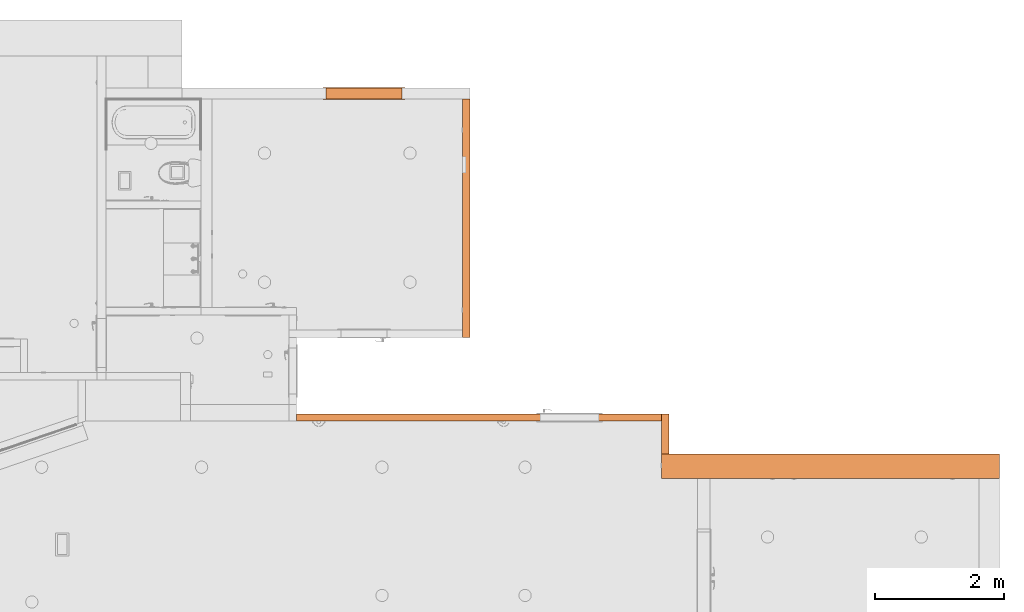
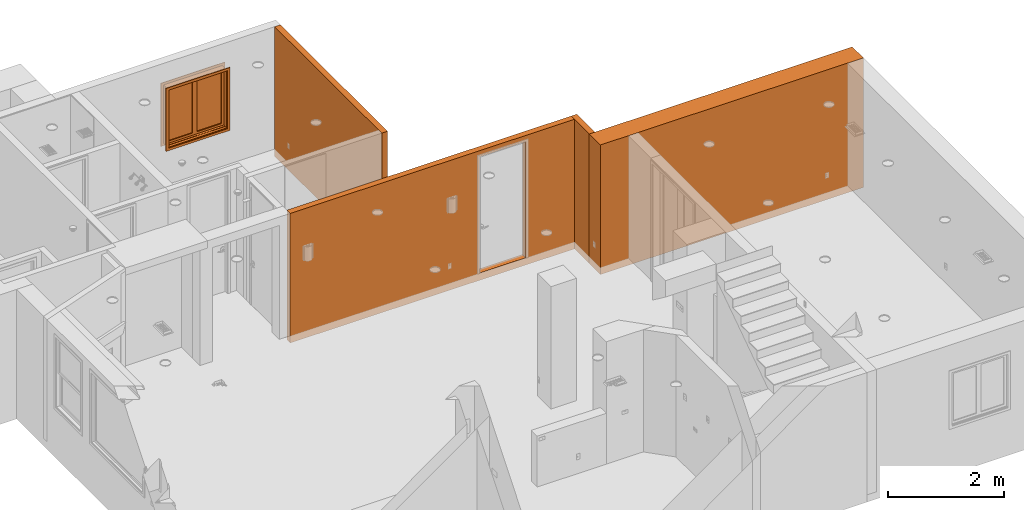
# One storey, part 46 of 48: 5 proxies.
"""IFC2X3 building model written with IfcOpenShell, lengths in inches."""

from ifc_helpers import new_model, entity, si_unit, converted_unit, derived_unit, money_unit, direction, frame, origin_with_axes, place, context, subcontext, project, spatial, faceted_brep, material, type_object, element, save


model = new_model("IFC2X3")

# Units and contexts
model_context = context("Model", 3, precision=0.00039370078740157, world=origin_with_axes(), true_north=direction((0.0, 1.0)))
plan_context = context("Plan", 3, precision=0.00039370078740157, world=origin_with_axes(), true_north=direction((0.0, 1.0)))
body_context = subcontext(model_context, "Body", "Model", "MODEL_VIEW")
ifc_project = project(units=[converted_unit("LENGTHUNIT", "INCH", entity("IfcPositiveLengthMeasure", 0.0254), si_unit("LENGTHUNIT", "METRE"), dimensions=[1, 0, 0, 0, 0, 0, 0]), converted_unit("AREAUNIT", "SQUARE_FOOT", entity("IfcPositiveLengthMeasure", 0.09290304), si_unit("AREAUNIT", "SQUARE_METRE"), dimensions=[2, 0, 0, 0, 0, 0, 0]), si_unit("PLANEANGLEUNIT", "RADIAN"), si_unit("SOLIDANGLEUNIT", "STERADIAN"), money_unit("USD"), converted_unit("TIMEUNIT", "Year", entity("IfcTimeMeasure", 31557600.0), si_unit("TIMEUNIT", "SECOND"), dimensions=[0, 0, 1, 0, 0, 0, 0]), si_unit("MASSUNIT", "GRAM", prefix="KILO"), si_unit("THERMODYNAMICTEMPERATUREUNIT", "DEGREE_CELSIUS"), si_unit("LUMINOUSINTENSITYUNIT", "LUMEN"), si_unit("ENERGYUNIT", "JOULE", prefix="MEGA"), derived_unit("SPECIFICHEATCAPACITYUNIT", [(si_unit("ENERGYUNIT", "JOULE"), 1), (si_unit("MASSUNIT", "GRAM", prefix="KILO"), -1), (si_unit("THERMODYNAMICTEMPERATUREUNIT", "KELVIN"), -1)])], contexts=[model_context, plan_context])

# Site, building, storey
site_placement = place(None, origin_with_axes())
site = spatial("IfcSite", under=ifc_project, at=site_placement, Name="Site", CompositionType="ELEMENT")
building_placement = place(site_placement, origin_with_axes())
building = spatial("IfcBuilding", under=site, at=building_placement, Name="Building", CompositionType="ELEMENT")
storey_placement = place(building_placement, origin_with_axes())
storey = spatial("IfcBuildingStorey", under=building, at=storey_placement, Name="First Floor", CompositionType="ELEMENT", Elevation=0.0)

# Proxies
ifc_material = material(Name="Generic - Structural")
building_element_proxy_type_1 = type_object("IfcBuildingElementProxyType", Name="Generic - Structural 4 1/2\"", PredefinedType="NOTDEFINED")
proxy_1_placement = place(storey_placement, frame((101.4999999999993, 412.999999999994, -5.99999999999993), z_axis=(0.0, 0.0, 1.0), x_axis=(0.0, 1.0, 0.0)))
element("IfcBuildingElementProxy", 1, at=proxy_1_placement, inside=storey, type_object=building_element_proxy_type_1, material=ifc_material, Name="SW - 054", context=body_context, shape_type="Brep", body=[
    faceted_brep([(140.4999999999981, 0.0, 0.0), (140.4999999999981, -4.499999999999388, 0.0), (-4.499999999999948, -4.499999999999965, 0.0), (-4.499999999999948, 0.0, 0.0), (140.4999999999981, 0.0, 106.9999999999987), (140.4999999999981, -4.49999999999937, 106.9999999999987), (-4.499999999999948, -4.499999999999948, 106.9999999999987), (-4.499999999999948, 0.0, 106.9999999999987)], [[[0, 1, 2, 3]], [[1, 0, 4, 5]], [[1, 5, 6, 2]], [[7, 3, 2, 6]], [[4, 0, 3, 7]], [[5, 4, 7, 6]]]),
])
proxy_2_placement = place(storey_placement, frame((222.4999999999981, 322.4999999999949, -5.99999999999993), z_axis=(0.0, 0.0, 1.0), x_axis=(0.0, 1.0, 0.0)))
element("IfcBuildingElementProxy", 2, at=proxy_2_placement, inside=storey, type_object=building_element_proxy_type_1, material=ifc_material, Name="SW - 015", context=body_context, shape_type="Brep", body=[
    faceted_brep([(39.49999999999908, 0.0, 0.0), (39.49999999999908, -4.499999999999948, 0.0), (14.99999999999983, -4.499999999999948, 0.0), (14.99999999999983, 0.0, 0.0), (39.49999999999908, 0.0, 106.9999999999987), (39.49999999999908, -4.499999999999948, 106.9999999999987), (14.99999999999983, -4.499999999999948, 106.9999999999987), (14.99999999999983, 0.0, 106.9999999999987)], [[[0, 1, 2, 3]], [[1, 0, 4, 5]], [[1, 5, 6, 2]], [[7, 3, 2, 6]], [[4, 0, 3, 7]], [[5, 4, 7, 6]]]),
])
proxy_3_placement = place(storey_placement, frame((222.4999999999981, 357.499999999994, -5.99999999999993), z_axis=(0.0, 0.0, 1.0), x_axis=(-1.0, 0.0, 0.0)))
element("IfcBuildingElementProxy", 3, at=proxy_3_placement, inside=storey, type_object=building_element_proxy_type_1, material=ifc_material, Name="SW - 016", context=body_context, shape_type="Brep", body=[
    faceted_brep([(221.9999999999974, 0.0, 106.9999999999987), (221.9999999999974, 0.0, 0.0), (0.0, 0.0, 0.0), (0.0, 0.0, 106.9999999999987), (73.99594943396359, 0.0, 5.99999999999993), (73.99594943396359, 0.0, 101.9999999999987), (37.99594943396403, 0.0, 101.9999999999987), (37.99594943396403, 0.0, 5.99999999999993), (221.9999999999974, -4.499999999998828, 106.9999999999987), (221.9999999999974, -4.499999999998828, 0.0), (0.0, -4.499999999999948, 0.0), (0.0, -4.499999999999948, 106.9999999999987), (73.99594943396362, -4.499999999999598, 5.99999999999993), (73.99594943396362, -4.499999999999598, 101.9999999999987), (37.99594943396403, -4.499999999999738, 101.9999999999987), (37.99594943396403, -4.499999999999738, 5.99999999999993)], [[[0, 1, 2, 3], [4, 5, 6, 7]], [[1, 0, 8, 9]], [[1, 9, 10, 2]], [[2, 10, 11, 3]], [[8, 0, 3, 11]], [[12, 13, 5, 4]], [[13, 14, 6, 5]], [[14, 15, 7, 6]], [[15, 12, 4, 7]], [[9, 8, 11, 10], [12, 15, 14, 13]]]),
])
building_element_proxy_type_2 = type_object("IfcBuildingElementProxyType", Name="W Double Sash", PredefinedType="NOTDEFINED")
proxy_4_placement = place(storey_placement, frame((18.50000000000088, 553.499999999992, 29.99999999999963), z_axis=(0.0, 0.0, 1.0), x_axis=(1.0, 0.0, 0.0)))
element("IfcBuildingElementProxy", 4, at=proxy_4_placement, inside=storey, type_object=building_element_proxy_type_2, Name="WD - 001", context=body_context, shape_type="Brep", body=[
    faceted_brep([(0.0, 2.0, 0.0), (45.99999999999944, 2.0, 0.0), (45.99999999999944, 0.0, 0.0), (0.0, 0.0, 0.0), (0.0, 2.0, 47.9999999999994), (45.99999999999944, 2.0, 47.9999999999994), (0.4999999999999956, 2.0, 0.4999999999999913), (45.49999999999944, 2.0, 0.4999999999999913), (45.49999999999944, 2.0, 47.49999999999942), (0.4999999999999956, 2.0, 47.49999999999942), (45.99999999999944, 0.0, 47.9999999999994), (0.0, 0.0, 47.9999999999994), (0.4999999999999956, 0.0, 0.4999999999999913), (0.4999999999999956, 0.0, 47.49999999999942), (45.49999999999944, 0.0, 47.49999999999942), (45.49999999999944, 0.0, 0.4999999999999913)], [[[0, 1, 2, 3]], [[0, 4, 5, 1], [6, 7, 8, 9]], [[1, 5, 10, 2]], [[3, 2, 10, 11], [12, 13, 14, 15]], [[4, 0, 3, 11]], [[5, 4, 11, 10]], [[7, 6, 12, 15]], [[8, 7, 15, 14]], [[9, 8, 14, 13]], [[6, 9, 13, 12]]]),
    faceted_brep([(-1.999999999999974, -0.4999999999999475, -1.999999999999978), (-1.999999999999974, 0.0, -1.999999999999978), (0.0, 0.0, 0.0), (0.0, -0.4999999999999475, 0.0), (-1.999999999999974, -0.4999999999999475, 49.99999999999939), (-1.999999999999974, 0.0, 49.99999999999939), (0.0, 0.0, 47.9999999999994), (0.0, -0.4999999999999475, 47.9999999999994)], [[[0, 1, 2, 3]], [[4, 5, 1, 0]], [[1, 5, 6, 2]], [[3, 2, 6, 7]], [[0, 3, 7, 4]], [[7, 6, 5, 4]]]),
    faceted_brep([(47.9999999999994, -0.5000000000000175, 49.99999999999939), (47.9999999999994, 0.0, 49.99999999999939), (45.99999999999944, 0.0, 47.9999999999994), (45.99999999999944, -0.4999999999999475, 47.9999999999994), (47.9999999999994, -0.4999999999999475, -1.999999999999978), (47.9999999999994, 0.0, -1.999999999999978), (45.99999999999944, 0.0, 0.0), (45.99999999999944, -0.4999999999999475, 0.0)], [[[0, 1, 2, 3]], [[4, 5, 1, 0]], [[1, 5, 6, 2]], [[3, 2, 6, 7]], [[0, 3, 7, 4]], [[7, 6, 5, 4]]]),
    faceted_brep([(47.9999999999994, -0.4999999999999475, -1.999999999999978), (47.9999999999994, 0.0, -1.999999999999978), (45.99999999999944, 0.0, 0.0), (45.99999999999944, -0.4999999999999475, 0.0), (-1.999999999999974, -0.4999999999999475, -1.999999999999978), (-1.999999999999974, 0.0, -1.999999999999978), (0.0, 0.0, 0.0), (0.0, -0.4999999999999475, 0.0)], [[[0, 1, 2, 3]], [[4, 5, 1, 0]], [[1, 5, 6, 2]], [[3, 2, 6, 7]], [[0, 3, 7, 4]], [[7, 6, 5, 4]]]),
    faceted_brep([(-1.999999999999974, -0.4999999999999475, 49.99999999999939), (-1.999999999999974, 0.0, 49.99999999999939), (0.0, 0.0, 47.9999999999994), (0.0, -0.4999999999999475, 47.9999999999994), (47.9999999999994, -0.5000000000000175, 49.99999999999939), (47.9999999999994, 0.0, 49.99999999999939), (45.99999999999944, 0.0, 47.9999999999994), (45.99999999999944, -0.4999999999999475, 47.9999999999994)], [[[0, 1, 2, 3]], [[4, 5, 1, 0]], [[1, 5, 6, 2]], [[3, 2, 6, 7]], [[0, 3, 7, 4]], [[7, 6, 5, 4]]]),
    faceted_brep([(-1.999999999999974, 6.999999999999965, -2.249999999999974), (0.0, 6.999999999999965, -0.2499999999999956), (0.0, 6.499999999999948, -0.2499999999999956), (-1.999999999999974, 6.499999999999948, -2.249999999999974), (-1.999999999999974, 6.999999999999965, 49.99999999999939), (0.0, 6.999999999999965, 47.9999999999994), (0.0, 6.499999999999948, 47.9999999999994), (-1.999999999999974, 6.499999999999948, 49.99999999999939)], [[[0, 1, 2, 3]], [[0, 4, 5, 1]], [[1, 5, 6, 2]], [[3, 2, 6, 7]], [[4, 0, 3, 7]], [[5, 4, 7, 6]]]),
    faceted_brep([(47.9999999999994, 6.999999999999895, 49.99999999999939), (45.99999999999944, 6.999999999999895, 47.9999999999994), (45.99999999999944, 6.499999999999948, 47.9999999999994), (47.9999999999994, 6.499999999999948, 49.99999999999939), (47.9999999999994, 6.999999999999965, -2.249999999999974), (45.99999999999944, 6.999999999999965, -0.2499999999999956), (45.99999999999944, 6.499999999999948, -0.2499999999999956), (47.9999999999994, 6.499999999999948, -2.249999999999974)], [[[0, 1, 2, 3]], [[0, 4, 5, 1]], [[1, 5, 6, 2]], [[3, 2, 6, 7]], [[4, 0, 3, 7]], [[5, 4, 7, 6]]]),
    faceted_brep([(47.9999999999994, 6.999999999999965, -2.249999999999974), (45.99999999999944, 6.999999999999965, -0.2499999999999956), (45.99999999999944, 6.499999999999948, -0.2499999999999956), (47.9999999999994, 6.499999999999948, -2.249999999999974), (-1.999999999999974, 6.999999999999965, -2.249999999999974), (0.0, 6.999999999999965, -0.2499999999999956), (0.0, 6.499999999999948, -0.2499999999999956), (-1.999999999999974, 6.499999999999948, -2.249999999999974)], [[[0, 1, 2, 3]], [[0, 4, 5, 1]], [[1, 5, 6, 2]], [[3, 2, 6, 7]], [[4, 0, 3, 7]], [[5, 4, 7, 6]]]),
    faceted_brep([(-1.999999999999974, 6.999999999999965, 49.99999999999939), (0.0, 6.999999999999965, 47.9999999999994), (0.0, 6.499999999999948, 47.9999999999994), (-1.999999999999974, 6.499999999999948, 49.99999999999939), (47.9999999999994, 6.999999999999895, 49.99999999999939), (45.99999999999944, 6.999999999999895, 47.9999999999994), (45.99999999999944, 6.499999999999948, 47.9999999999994), (47.9999999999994, 6.499999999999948, 49.99999999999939)], [[[0, 1, 2, 3]], [[0, 4, 5, 1]], [[1, 5, 6, 2]], [[3, 2, 6, 7]], [[4, 0, 3, 7]], [[5, 4, 7, 6]]]),
    faceted_brep([(0.4996062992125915, 2.0, 0.7539370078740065), (0.4996062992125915, 2.0, 47.4960629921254), (0.0, 2.0, 47.4960629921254), (0.0, 2.0, 0.7539370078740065), (0.4996062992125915, 3.749999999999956, 47.4960629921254), (0.4996062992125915, 3.749999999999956, 0.7539370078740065), (0.2499999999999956, 3.749999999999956, 47.4960629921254), (0.2499999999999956, 6.499999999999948, 47.4960629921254), (0.0, 6.499999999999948, 47.4960629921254), (0.0, 6.499999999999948, 0.7539370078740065), (0.2499999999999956, 6.499999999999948, 0.7539370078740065), (0.2499999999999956, 3.749999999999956, 0.7539370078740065)], [[[0, 1, 2, 3]], [[4, 1, 0, 5]], [[1, 4, 6, 7, 8, 2]], [[9, 3, 2, 8]], [[5, 0, 3, 9, 10, 11]], [[4, 5, 11, 6]], [[11, 10, 7, 6]], [[9, 8, 7, 10]]]),
    faceted_brep([(45.50039370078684, 3.749999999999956, 47.4960629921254), (45.50039370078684, 2.0, 47.4960629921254), (45.99999999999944, 2.0, 47.4960629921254), (45.99999999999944, 6.499999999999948, 47.4960629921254), (45.74999999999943, 6.499999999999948, 47.4960629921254), (45.74999999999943, 3.749999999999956, 47.4960629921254), (45.50039370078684, 2.0, 0.7539370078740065), (45.50039370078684, 3.749999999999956, 0.7539370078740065), (45.99999999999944, 2.0, 0.7539370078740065), (45.99999999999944, 6.499999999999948, 0.7539370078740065), (45.74999999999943, 6.499999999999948, 0.7539370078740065), (45.74999999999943, 3.749999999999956, 0.7539370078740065)], [[[0, 1, 2, 3, 4, 5]], [[6, 1, 0, 7]], [[1, 6, 8, 2]], [[3, 2, 8, 9]], [[3, 9, 10, 4]], [[11, 5, 4, 10]], [[7, 0, 5, 11]], [[6, 7, 11, 10, 9, 8]]]),
    faceted_brep([(0.4996062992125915, 3.749999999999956, 0.7496062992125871), (22.99960629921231, 3.749999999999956, 0.7496062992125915), (45.50039370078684, 3.749999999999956, 0.7496062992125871), (45.50039370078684, 3.749999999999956, 0.7539370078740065), (45.74999999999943, 3.749999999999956, 0.7539370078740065), (45.74999999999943, 3.749999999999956, 0.4999999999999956), (0.2499999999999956, 3.749999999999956, 0.4999999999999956), (0.2499999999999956, 3.749999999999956, 0.7539370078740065), (0.4996062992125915, 3.749999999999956, 0.7539370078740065), (0.4996062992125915, 2.0, 0.7496062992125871), (22.99960629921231, 2.0, 0.7496062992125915), (45.50039370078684, 2.0, 0.7496062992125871), (45.50039370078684, 2.0, 0.7539370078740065), (45.99999999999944, 6.499999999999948, 0.7539370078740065), (45.74999999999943, 6.499999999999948, 0.7539370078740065), (45.99999999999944, 2.0, 0.7539370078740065), (45.74999999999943, 6.499999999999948, 0.4999999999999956), (0.2499999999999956, 6.499999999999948, 0.4999999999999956), (0.2499999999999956, 6.499999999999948, 0.7539370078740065), (0.4996062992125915, 2.0, 0.7539370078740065), (0.0, 6.499999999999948, 0.7539370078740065), (0.0, 2.0, 0.7539370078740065), (0.0, 2.0, 0.0), (45.99999999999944, 2.0, 0.0), (45.99999999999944, 6.499999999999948, 0.0), (0.0, 6.499999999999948, 0.0)], [[[0, 1, 2, 3, 4, 5, 6, 7, 8]], [[9, 10, 11, 2, 1, 0]], [[12, 3, 2, 11]], [[13, 14, 4, 3, 12, 15]], [[4, 14, 16, 5]], [[6, 5, 16, 17]], [[17, 18, 7, 6]], [[19, 8, 7, 18, 20, 21]], [[8, 19, 9, 0]], [[9, 19, 21, 22, 23, 15, 12, 11, 10]], [[13, 24, 25, 20, 18, 17, 16, 14]], [[15, 23, 24, 13]], [[22, 21, 20, 25]], [[23, 22, 25, 24]]]),
    faceted_brep([(0.4996062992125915, 2.0, 47.4960629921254), (0.4996062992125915, 2.0, 47.50039370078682), (22.99960629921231, 2.0, 47.50039370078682), (45.50039370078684, 2.0, 47.50039370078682), (45.50039370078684, 2.0, 47.4960629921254), (45.99999999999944, 2.0, 47.4960629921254), (45.99999999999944, 2.0, 47.9999999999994), (0.0, 2.0, 47.9999999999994), (0.0, 2.0, 47.4960629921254), (0.4996062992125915, 3.749999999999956, 47.4960629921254), (0.4996062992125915, 3.749999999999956, 47.50039370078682), (22.99960629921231, 3.749999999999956, 47.50039370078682), (45.50039370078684, 3.749999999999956, 47.50039370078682), (45.50039370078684, 3.749999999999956, 47.4960629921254), (45.74999999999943, 6.499999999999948, 47.4960629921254), (45.99999999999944, 6.499999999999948, 47.4960629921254), (45.74999999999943, 3.749999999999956, 47.4960629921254), (45.99999999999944, 6.499999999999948, 47.9999999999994), (0.0, 6.499999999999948, 47.9999999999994), (0.0, 6.499999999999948, 47.4960629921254), (0.2499999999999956, 6.499999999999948, 47.4960629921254), (0.2499999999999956, 3.749999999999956, 47.4960629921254), (0.2499999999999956, 3.749999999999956, 47.74999999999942), (45.74999999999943, 3.749999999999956, 47.74999999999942), (45.74999999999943, 6.499999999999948, 47.74999999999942), (0.2499999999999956, 6.499999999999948, 47.74999999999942)], [[[0, 1, 2, 3, 4, 5, 6, 7, 8]], [[1, 0, 9, 10]], [[2, 1, 10, 11, 12, 3]], [[3, 12, 13, 4]], [[14, 15, 5, 4, 13, 16]], [[6, 5, 15, 17]], [[7, 6, 17, 18]], [[8, 7, 18, 19]], [[9, 0, 8, 19, 20, 21]], [[10, 9, 21, 22, 23, 16, 13, 12, 11]], [[20, 19, 18, 17, 15, 14, 24, 25]], [[23, 24, 14, 16]], [[21, 20, 25, 22]], [[22, 25, 24, 23]]]),
    faceted_brep([(24.74999999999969, 3.749999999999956, 2.499999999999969), (24.74999999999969, 4.62499999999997, 2.499999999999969), (24.74999999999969, 4.62499999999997, 45.74999999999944), (24.74999999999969, 3.749999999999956, 45.74999999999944), (22.74999999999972, 3.749999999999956, 2.499999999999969), (22.74999999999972, 4.62499999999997, 2.499999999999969), (22.74999999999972, 4.62499999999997, 45.74999999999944), (22.74999999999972, 3.749999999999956, 45.74999999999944)], [[[0, 1, 2, 3]], [[4, 5, 1, 0]], [[1, 5, 6, 2]], [[3, 2, 6, 7]], [[0, 3, 7, 4]], [[7, 6, 5, 4]]]),
    faceted_brep([(45.74999999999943, 3.749999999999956, 2.499999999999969), (45.74999999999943, 4.62499999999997, 2.499999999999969), (45.74999999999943, 4.62499999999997, 45.74999999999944), (45.74999999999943, 3.749999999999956, 45.74999999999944), (43.74999999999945, 3.749999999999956, 2.499999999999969), (43.74999999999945, 4.62499999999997, 2.499999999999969), (43.74999999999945, 4.62499999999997, 45.74999999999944), (43.74999999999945, 3.749999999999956, 45.74999999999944)], [[[0, 1, 2, 3]], [[4, 5, 1, 0]], [[1, 5, 6, 2]], [[3, 2, 6, 7]], [[0, 3, 7, 4]], [[7, 6, 5, 4]]]),
    faceted_brep([(45.74999999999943, 3.749999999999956, 0.4999999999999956), (45.74999999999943, 4.62499999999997, 0.4999999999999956), (45.74999999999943, 4.62499999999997, 2.499999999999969), (45.74999999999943, 3.749999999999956, 2.499999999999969), (22.74999999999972, 3.749999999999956, 0.4999999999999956), (22.74999999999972, 4.62499999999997, 0.4999999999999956), (22.74999999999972, 4.62499999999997, 2.499999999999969), (24.74999999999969, 4.62499999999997, 2.499999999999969), (33.24999999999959, 4.62499999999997, 2.499999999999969), (35.24999999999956, 4.62499999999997, 2.499999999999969), (43.74999999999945, 4.62499999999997, 2.499999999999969), (43.74999999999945, 3.749999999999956, 2.499999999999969), (35.24999999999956, 3.749999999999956, 2.499999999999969), (33.24999999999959, 3.749999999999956, 2.499999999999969), (24.74999999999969, 3.749999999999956, 2.499999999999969), (22.74999999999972, 3.749999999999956, 2.499999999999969)], [[[0, 1, 2, 3]], [[4, 5, 1, 0]], [[1, 5, 6, 7, 8, 9, 10, 2]], [[3, 2, 10, 11]], [[0, 3, 11, 12, 13, 14, 15, 4]], [[15, 6, 5, 4]], [[14, 7, 6, 15]], [[13, 8, 7, 14]], [[12, 9, 8, 13]], [[11, 10, 9, 12]]]),
    faceted_brep([(22.74999999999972, 3.749999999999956, 47.74999999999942), (22.74999999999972, 4.62499999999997, 47.74999999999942), (22.74999999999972, 4.62499999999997, 45.74999999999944), (22.74999999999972, 3.749999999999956, 45.74999999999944), (45.74999999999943, 3.749999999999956, 47.74999999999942), (45.74999999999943, 4.62499999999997, 47.74999999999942), (45.74999999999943, 4.62499999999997, 45.74999999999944), (43.74999999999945, 4.62499999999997, 45.74999999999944), (35.24999999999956, 4.62499999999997, 45.74999999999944), (33.24999999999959, 4.62499999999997, 45.74999999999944), (24.74999999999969, 4.62499999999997, 45.74999999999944), (24.74999999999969, 3.749999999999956, 45.74999999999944), (33.24999999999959, 3.749999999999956, 45.74999999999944), (35.24999999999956, 3.749999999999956, 45.74999999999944), (43.74999999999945, 3.749999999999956, 45.74999999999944), (45.74999999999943, 3.749999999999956, 45.74999999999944)], [[[0, 1, 2, 3]], [[4, 5, 1, 0]], [[1, 5, 6, 7, 8, 9, 10, 2]], [[3, 2, 10, 11]], [[0, 3, 11, 12, 13, 14, 15, 4]], [[15, 6, 5, 4]], [[14, 7, 6, 15]], [[13, 8, 7, 14]], [[12, 9, 8, 13]], [[11, 10, 9, 12]]]),
    faceted_brep([(24.74999999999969, 4.62499999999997, 2.499999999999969), (24.74999999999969, 5.499999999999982, 2.499999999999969), (24.74999999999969, 5.499999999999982, 45.74999999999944), (24.74999999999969, 4.62499999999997, 45.74999999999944), (22.74999999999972, 4.62499999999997, 2.499999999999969), (22.74999999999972, 5.499999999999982, 2.499999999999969), (22.74999999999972, 5.499999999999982, 45.74999999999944), (22.74999999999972, 4.62499999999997, 45.74999999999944)], [[[0, 1, 2, 3]], [[4, 5, 1, 0]], [[1, 5, 6, 2]], [[3, 2, 6, 7]], [[0, 3, 7, 4]], [[7, 6, 5, 4]]]),
    faceted_brep([(45.74999999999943, 4.62499999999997, 2.499999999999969), (45.74999999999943, 5.499999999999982, 2.499999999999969), (45.74999999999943, 5.499999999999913, 45.74999999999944), (45.74999999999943, 4.62499999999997, 45.74999999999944), (43.74999999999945, 4.62499999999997, 2.499999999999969), (43.74999999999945, 5.499999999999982, 2.499999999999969), (43.74999999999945, 5.499999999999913, 45.74999999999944), (43.74999999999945, 4.62499999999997, 45.74999999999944)], [[[0, 1, 2, 3]], [[4, 5, 1, 0]], [[1, 5, 6, 2]], [[3, 2, 6, 7]], [[0, 3, 7, 4]], [[7, 6, 5, 4]]]),
    faceted_brep([(45.74999999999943, 4.62499999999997, 0.4999999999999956), (45.74999999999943, 5.499999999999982, 0.4999999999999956), (45.74999999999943, 5.499999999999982, 2.499999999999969), (45.74999999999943, 4.62499999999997, 2.499999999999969), (22.74999999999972, 4.62499999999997, 0.4999999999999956), (22.74999999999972, 5.499999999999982, 0.4999999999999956), (22.74999999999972, 5.499999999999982, 2.499999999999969), (24.74999999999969, 5.499999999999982, 2.499999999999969), (33.24999999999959, 5.499999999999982, 2.499999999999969), (35.24999999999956, 5.499999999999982, 2.499999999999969), (43.74999999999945, 5.499999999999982, 2.499999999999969), (43.74999999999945, 4.62499999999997, 2.499999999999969), (35.24999999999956, 4.62499999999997, 2.499999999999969), (33.24999999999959, 4.62499999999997, 2.499999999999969), (24.74999999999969, 4.62499999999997, 2.499999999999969), (22.74999999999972, 4.62499999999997, 2.499999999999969)], [[[0, 1, 2, 3]], [[4, 5, 1, 0]], [[1, 5, 6, 7, 8, 9, 10, 2]], [[3, 2, 10, 11]], [[0, 3, 11, 12, 13, 14, 15, 4]], [[15, 6, 5, 4]], [[14, 7, 6, 15]], [[13, 8, 7, 14]], [[12, 9, 8, 13]], [[11, 10, 9, 12]]]),
    faceted_brep([(22.74999999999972, 4.62499999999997, 47.74999999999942), (22.74999999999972, 5.499999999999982, 47.74999999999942), (22.74999999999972, 5.499999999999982, 45.74999999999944), (22.74999999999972, 4.62499999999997, 45.74999999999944), (45.74999999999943, 4.62499999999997, 47.74999999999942), (45.74999999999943, 5.499999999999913, 47.74999999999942), (45.74999999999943, 5.499999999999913, 45.74999999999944), (43.74999999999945, 5.499999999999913, 45.74999999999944), (35.24999999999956, 5.499999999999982, 45.74999999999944), (33.24999999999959, 5.499999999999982, 45.74999999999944), (24.74999999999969, 5.499999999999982, 45.74999999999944), (24.74999999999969, 4.62499999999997, 45.74999999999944), (33.24999999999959, 4.62499999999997, 45.74999999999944), (35.24999999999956, 4.62499999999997, 45.74999999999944), (43.74999999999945, 4.62499999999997, 45.74999999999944), (45.74999999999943, 4.62499999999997, 45.74999999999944)], [[[0, 1, 2, 3]], [[4, 5, 1, 0]], [[1, 5, 6, 7, 8, 9, 10, 2]], [[3, 2, 10, 11]], [[0, 3, 11, 12, 13, 14, 15, 4]], [[15, 6, 5, 4]], [[14, 7, 6, 15]], [[13, 8, 7, 14]], [[12, 9, 8, 13]], [[11, 10, 9, 12]]]),
    faceted_brep([(24.74999999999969, 4.499999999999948, 2.499999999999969), (24.74999999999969, 4.749999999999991, 2.499999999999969), (43.74999999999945, 4.749999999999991, 2.499999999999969), (43.74999999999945, 4.499999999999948, 2.499999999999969), (24.74999999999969, 4.499999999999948, 45.74999999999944), (24.74999999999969, 4.749999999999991, 45.74999999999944), (43.74999999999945, 4.749999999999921, 45.74999999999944), (43.74999999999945, 4.499999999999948, 45.74999999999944)], [[[0, 1, 2, 3]], [[4, 5, 1, 0]], [[1, 5, 6, 2]], [[3, 2, 6, 7]], [[0, 3, 7, 4]], [[7, 6, 5, 4]]]),
    faceted_brep([(2.249999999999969, 3.749999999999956, 2.499999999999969), (2.249999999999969, 4.62499999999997, 2.499999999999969), (2.249999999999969, 4.62499999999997, 45.74999999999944), (2.249999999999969, 3.749999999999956, 45.74999999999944), (0.2499999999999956, 3.749999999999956, 2.499999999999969), (0.2499999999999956, 4.62499999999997, 2.499999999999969), (0.2499999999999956, 4.62499999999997, 45.74999999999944), (0.2499999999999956, 3.749999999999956, 45.74999999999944)], [[[0, 1, 2, 3]], [[4, 5, 1, 0]], [[1, 5, 6, 2]], [[3, 2, 6, 7]], [[0, 3, 7, 4]], [[7, 6, 5, 4]]]),
    faceted_brep([(23.24999999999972, 3.749999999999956, 2.499999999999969), (23.24999999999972, 4.62499999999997, 2.499999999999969), (23.24999999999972, 4.62499999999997, 45.74999999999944), (23.24999999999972, 3.749999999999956, 45.74999999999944), (21.24999999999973, 3.749999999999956, 2.499999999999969), (21.24999999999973, 4.62499999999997, 2.499999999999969), (21.24999999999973, 4.62499999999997, 45.74999999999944), (21.24999999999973, 3.749999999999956, 45.74999999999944)], [[[0, 1, 2, 3]], [[4, 5, 1, 0]], [[1, 5, 6, 2]], [[3, 2, 6, 7]], [[0, 3, 7, 4]], [[7, 6, 5, 4]]]),
    faceted_brep([(23.24999999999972, 3.749999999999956, 0.4999999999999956), (23.24999999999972, 4.62499999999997, 0.4999999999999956), (23.24999999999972, 4.62499999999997, 2.499999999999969), (23.24999999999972, 3.749999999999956, 2.499999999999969), (0.2499999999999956, 3.749999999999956, 0.4999999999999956), (0.2499999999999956, 4.62499999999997, 0.4999999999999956), (0.2499999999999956, 4.62499999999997, 2.499999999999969), (2.249999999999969, 4.62499999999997, 2.499999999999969), (10.74999999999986, 4.62499999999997, 2.499999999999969), (12.74999999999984, 4.62499999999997, 2.499999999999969), (21.24999999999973, 4.62499999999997, 2.499999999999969), (21.24999999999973, 3.749999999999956, 2.499999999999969), (12.74999999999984, 3.749999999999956, 2.499999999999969), (10.74999999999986, 3.749999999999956, 2.499999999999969), (2.249999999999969, 3.749999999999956, 2.499999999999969), (0.2499999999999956, 3.749999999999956, 2.499999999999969)], [[[0, 1, 2, 3]], [[4, 5, 1, 0]], [[1, 5, 6, 7, 8, 9, 10, 2]], [[3, 2, 10, 11]], [[0, 3, 11, 12, 13, 14, 15, 4]], [[15, 6, 5, 4]], [[14, 7, 6, 15]], [[13, 8, 7, 14]], [[12, 9, 8, 13]], [[11, 10, 9, 12]]]),
    faceted_brep([(0.2499999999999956, 3.749999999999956, 47.74999999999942), (0.2499999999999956, 4.62499999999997, 47.74999999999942), (0.2499999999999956, 4.62499999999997, 45.74999999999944), (0.2499999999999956, 3.749999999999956, 45.74999999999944), (23.24999999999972, 3.749999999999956, 47.74999999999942), (23.24999999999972, 4.62499999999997, 47.74999999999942), (23.24999999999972, 4.62499999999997, 45.74999999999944), (21.24999999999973, 4.62499999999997, 45.74999999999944), (12.74999999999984, 4.62499999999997, 45.74999999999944), (10.74999999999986, 4.62499999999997, 45.74999999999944), (2.249999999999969, 4.62499999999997, 45.74999999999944), (2.249999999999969, 3.749999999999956, 45.74999999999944), (10.74999999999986, 3.749999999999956, 45.74999999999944), (12.74999999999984, 3.749999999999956, 45.74999999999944), (21.24999999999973, 3.749999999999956, 45.74999999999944), (23.24999999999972, 3.749999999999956, 45.74999999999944)], [[[0, 1, 2, 3]], [[4, 5, 1, 0]], [[1, 5, 6, 7, 8, 9, 10, 2]], [[3, 2, 10, 11]], [[0, 3, 11, 12, 13, 14, 15, 4]], [[15, 6, 5, 4]], [[14, 7, 6, 15]], [[13, 8, 7, 14]], [[12, 9, 8, 13]], [[11, 10, 9, 12]]]),
    faceted_brep([(2.249999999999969, 4.62499999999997, 2.499999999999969), (2.249999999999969, 5.499999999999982, 2.499999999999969), (2.249999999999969, 5.499999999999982, 45.74999999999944), (2.249999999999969, 4.62499999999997, 45.74999999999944), (0.2499999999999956, 4.62499999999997, 2.499999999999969), (0.2499999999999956, 5.499999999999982, 2.499999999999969), (0.2499999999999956, 5.499999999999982, 45.74999999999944), (0.2499999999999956, 4.62499999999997, 45.74999999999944)], [[[0, 1, 2, 3]], [[4, 5, 1, 0]], [[1, 5, 6, 2]], [[3, 2, 6, 7]], [[0, 3, 7, 4]], [[7, 6, 5, 4]]]),
    faceted_brep([(23.24999999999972, 4.62499999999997, 2.499999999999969), (23.24999999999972, 5.499999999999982, 2.499999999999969), (23.24999999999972, 5.499999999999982, 45.74999999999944), (23.24999999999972, 4.62499999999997, 45.74999999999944), (21.24999999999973, 4.62499999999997, 2.499999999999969), (21.24999999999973, 5.499999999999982, 2.499999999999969), (21.24999999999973, 5.499999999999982, 45.74999999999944), (21.24999999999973, 4.62499999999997, 45.74999999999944)], [[[0, 1, 2, 3]], [[4, 5, 1, 0]], [[1, 5, 6, 2]], [[3, 2, 6, 7]], [[0, 3, 7, 4]], [[7, 6, 5, 4]]]),
    faceted_brep([(23.24999999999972, 4.62499999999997, 0.4999999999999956), (23.24999999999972, 5.499999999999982, 0.4999999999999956), (23.24999999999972, 5.499999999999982, 2.499999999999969), (23.24999999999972, 4.62499999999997, 2.499999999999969), (0.2499999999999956, 4.62499999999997, 0.4999999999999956), (0.2499999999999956, 5.499999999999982, 0.4999999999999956), (0.2499999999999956, 5.499999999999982, 2.499999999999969), (2.249999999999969, 5.499999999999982, 2.499999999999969), (10.74999999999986, 5.499999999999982, 2.499999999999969), (12.74999999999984, 5.499999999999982, 2.499999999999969), (21.24999999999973, 5.499999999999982, 2.499999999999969), (21.24999999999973, 4.62499999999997, 2.499999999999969), (12.74999999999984, 4.62499999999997, 2.499999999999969), (10.74999999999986, 4.62499999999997, 2.499999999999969), (2.249999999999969, 4.62499999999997, 2.499999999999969), (0.2499999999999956, 4.62499999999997, 2.499999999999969)], [[[0, 1, 2, 3]], [[4, 5, 1, 0]], [[1, 5, 6, 7, 8, 9, 10, 2]], [[3, 2, 10, 11]], [[0, 3, 11, 12, 13, 14, 15, 4]], [[15, 6, 5, 4]], [[14, 7, 6, 15]], [[13, 8, 7, 14]], [[12, 9, 8, 13]], [[11, 10, 9, 12]]]),
    faceted_brep([(0.2499999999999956, 4.62499999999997, 47.74999999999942), (0.2499999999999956, 5.499999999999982, 47.74999999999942), (0.2499999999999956, 5.499999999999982, 45.74999999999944), (0.2499999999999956, 4.62499999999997, 45.74999999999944), (23.24999999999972, 4.62499999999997, 47.74999999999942), (23.24999999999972, 5.499999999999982, 47.74999999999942), (23.24999999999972, 5.499999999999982, 45.74999999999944), (21.24999999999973, 5.499999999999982, 45.74999999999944), (12.74999999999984, 5.499999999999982, 45.74999999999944), (10.74999999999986, 5.499999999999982, 45.74999999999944), (2.249999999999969, 5.499999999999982, 45.74999999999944), (2.249999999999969, 4.62499999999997, 45.74999999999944), (10.74999999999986, 4.62499999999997, 45.74999999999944), (12.74999999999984, 4.62499999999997, 45.74999999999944), (21.24999999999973, 4.62499999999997, 45.74999999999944), (23.24999999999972, 4.62499999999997, 45.74999999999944)], [[[0, 1, 2, 3]], [[4, 5, 1, 0]], [[1, 5, 6, 7, 8, 9, 10, 2]], [[3, 2, 10, 11]], [[0, 3, 11, 12, 13, 14, 15, 4]], [[15, 6, 5, 4]], [[14, 7, 6, 15]], [[13, 8, 7, 14]], [[12, 9, 8, 13]], [[11, 10, 9, 12]]]),
    faceted_brep([(2.249999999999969, 4.499999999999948, 2.499999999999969), (2.249999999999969, 4.749999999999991, 2.499999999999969), (21.24999999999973, 4.749999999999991, 2.499999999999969), (21.24999999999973, 4.499999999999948, 2.499999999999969), (2.249999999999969, 4.499999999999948, 45.74999999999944), (2.249999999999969, 4.749999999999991, 45.74999999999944), (21.24999999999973, 4.749999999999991, 45.74999999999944), (21.24999999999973, 4.499999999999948, 45.74999999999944)], [[[0, 1, 2, 3]], [[4, 5, 1, 0]], [[1, 5, 6, 2]], [[3, 2, 6, 7]], [[0, 3, 7, 4]], [[7, 6, 5, 4]]]),
])
building_element_proxy_type_3 = type_object("IfcBuildingElementProxyType", Name="Generic - Structural 15\"", PredefinedType="NOTDEFINED")
proxy_5_placement = place(storey_placement, frame((415.4999999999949, 322.4999999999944, -5.99999999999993), z_axis=(0.0, 0.0, 1.0), x_axis=(-1.0, 0.0, 0.0)))
element("IfcBuildingElementProxy", 5, at=proxy_5_placement, inside=storey, type_object=building_element_proxy_type_3, material=ifc_material, Name="SW - 014", context=body_context, shape_type="Brep", body=[
    faceted_brep([(192.9999999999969, 0.0, 0.0), (192.9999999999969, -14.99999999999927, 0.0), (-12.49999999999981, -14.9999999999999, 0.0), (-12.49999999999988, 0.0, 0.0), (192.9999999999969, 0.0, 106.9999999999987), (192.9999999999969, -14.99999999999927, 106.9999999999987), (-12.49999999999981, -14.9999999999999, 106.9999999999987), (-12.49999999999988, 0.0, 106.9999999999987)], [[[0, 1, 2, 3]], [[1, 0, 4, 5]], [[1, 5, 6, 2]], [[7, 3, 2, 6]], [[4, 0, 3, 7]], [[5, 4, 7, 6]]]),
])

save(model, "model.ifc")
